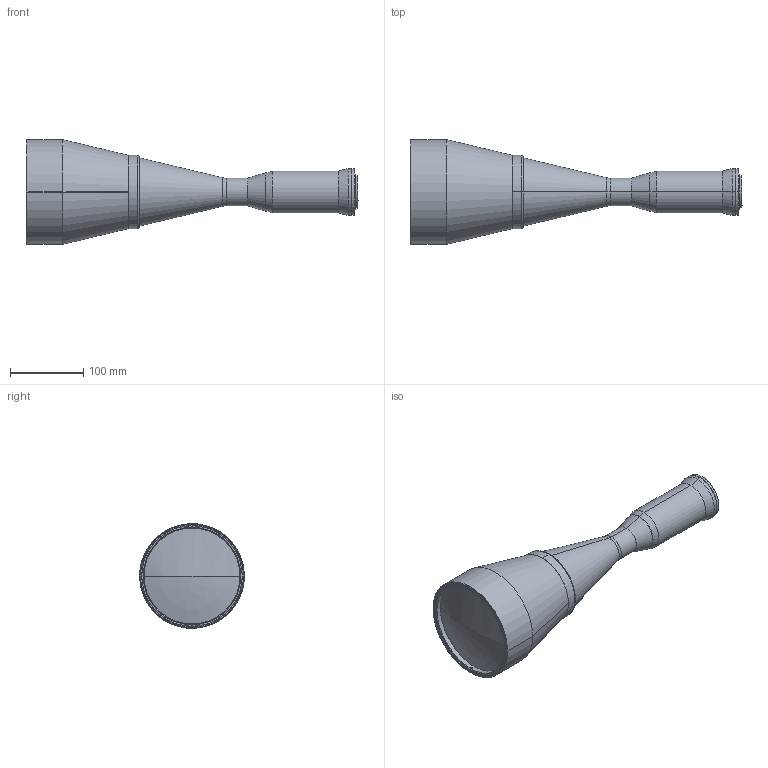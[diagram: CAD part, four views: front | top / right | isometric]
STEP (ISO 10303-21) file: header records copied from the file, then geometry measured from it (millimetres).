
FILE_DESCRIPTION(('LS-TCL-0205'),'2;1');
FILE_NAME('LS-TCL-0205.stp','2026-10-15T21:54:37',('LumaSpec Vision'),('LumaSpec Vision'),'LumaSpec Vision','LumaSpec Vision','');
FILE_SCHEMA(('AUTOMOTIVE_DESIGN { 1 0 10303 214 1 1 1 1 }'));
Length unit declared in the file: millimetre
Products named in the file (83): LumaSpec Vision
Assembly tree (82 placements, depth 2):
  LumaSpec Vision
    LumaSpec Vision
    LumaSpec Vision
    LumaSpec Vision
    LumaSpec Vision
    LumaSpec Vision
    LumaSpec Vision
    LumaSpec Vision
    LumaSpec Vision
    LumaSpec Vision
    LumaSpec Vision
    LumaSpec Vision
    LumaSpec Vision
    LumaSpec Vision
    LumaSpec Vision
    LumaSpec Vision
    LumaSpec Vision
    LumaSpec Vision
    LumaSpec Vision
    LumaSpec Vision
    LumaSpec Vision
    LumaSpec Vision
    LumaSpec Vision
    LumaSpec Vision
    LumaSpec Vision
    LumaSpec Vision
    LumaSpec Vision
    LumaSpec Vision
    LumaSpec Vision
    LumaSpec Vision
    LumaSpec Vision
    LumaSpec Vision
    LumaSpec Vision
    LumaSpec Vision
    LumaSpec Vision
    LumaSpec Vision
    LumaSpec Vision
    LumaSpec Vision
    LumaSpec Vision
    LumaSpec Vision
    LumaSpec Vision
    LumaSpec Vision
    LumaSpec Vision
    LumaSpec Vision
    LumaSpec Vision
    LumaSpec Vision
    LumaSpec Vision
    LumaSpec Vision
    LumaSpec Vision
    LumaSpec Vision
    LumaSpec Vision
    LumaSpec Vision
    LumaSpec Vision
    LumaSpec Vision
    LumaSpec Vision
    LumaSpec Vision
    LumaSpec Vision
    LumaSpec Vision
    LumaSpec Vision
    LumaSpec Vision
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Bounding box: 453.48 x 143 x 143 mm (x, y, z)
Surface area: 167809.6 mm2 (no closed solid volume)
Topology: 0 solids, 82 shells, 82 faces, 1650 edges, 1647 vertices
Faces by surface type: revolution 59, bspline 23
Entity records: 27149 total; most frequent: CARTESIAN_POINT 11040, B_SPLINE_CURVE_WITH_KNOTS 2985, ORIENTED_EDGE 1647, EDGE_CURVE 1647, VERTEX_POINT 1647, SURFACE_CURVE 1647, PCURVE 1647, DEFINITIONAL_REPRESENTATION 1647
